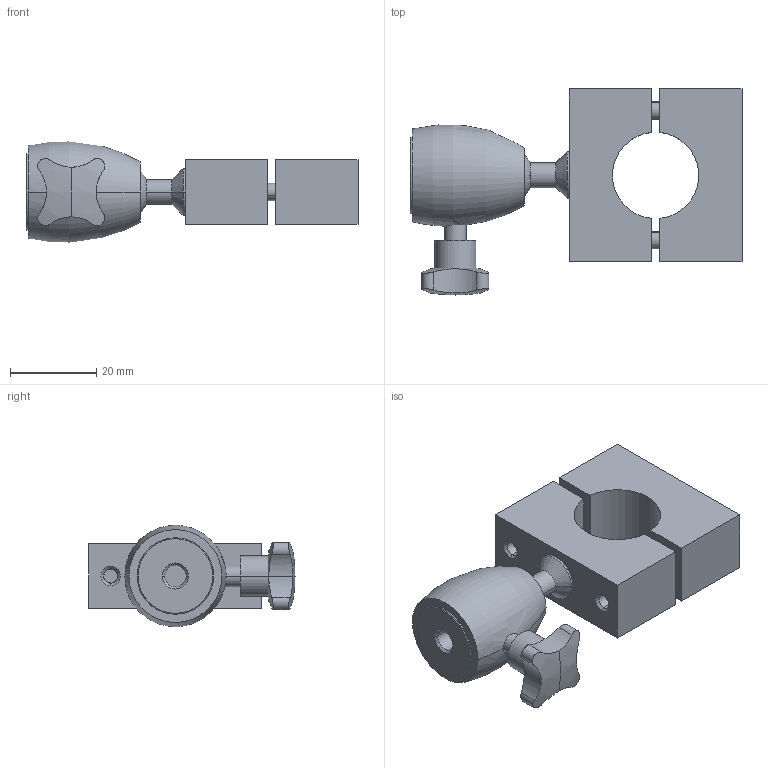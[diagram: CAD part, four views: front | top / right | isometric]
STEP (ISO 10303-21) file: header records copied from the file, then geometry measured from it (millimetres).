
FILE_DESCRIPTION (( 'STEP AP203' ), '1' );
FILE_NAME ('BKK-B2-HD.STEP', '2011-12-20T14:53:13', ( '' ), ( '' ), 'SwSTEP 2.0', 'SolidWorks 2010', '' );
FILE_SCHEMA (( 'CONFIG_CONTROL_DESIGN' ));
Length unit declared in the file: millimetre
Products named in the file (6): BKK-B2-HD_DIN 912 8.8 VZ M04.0x025_M4 x 25; BKK-B2-HD-Kugel; BKK-B2-HD; BKK-B2-HD_mec005450 Halterung; BKK-B2-HD-Rändel; BKK-B2-HD-Grundkörper
Assembly tree (6 placements, depth 2):
  BKK-B2-HD
    BKK-B2-HD_mec005450 Halterung
    BKK-B2-HD-Grundkörper
    BKK-B2-HD_DIN 912 8.8 VZ M04.0x025_M4 x 25  x2
    BKK-B2-HD-Kugel
    BKK-B2-HD-Rändel
Bounding box: 76.87 x 47.7 x 23.41 mm (x, y, z)
Volume: 28632.4 mm3; surface area: 13496.8 mm2
Topology: 7 solids, 7 shells, 171 faces, 403 edges, 245 vertices
Faces by surface type: cylinder 58, plane 58, cone 36, torus 10, sphere 9
Entity records: 5257 total; most frequent: CARTESIAN_POINT 1312, DIRECTION 728, ORIENTED_EDGE 658, EDGE_CURVE 329, AXIS2_PLACEMENT_3D 294, VERTEX_POINT 205, EDGE_LOOP 162, CIRCLE 143
